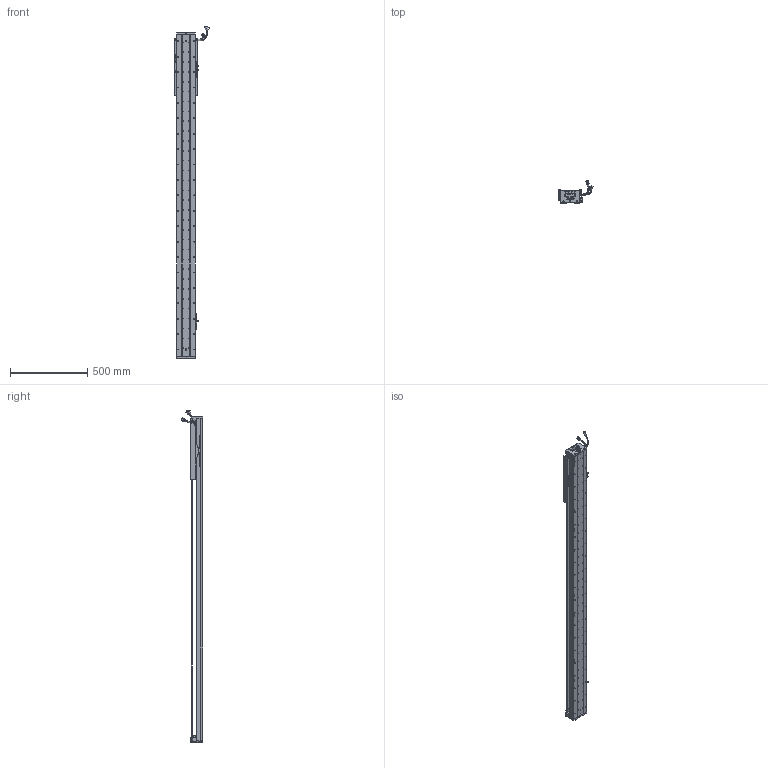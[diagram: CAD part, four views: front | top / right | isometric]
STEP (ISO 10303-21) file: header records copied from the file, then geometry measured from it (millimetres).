
FILE_DESCRIPTION (( 'STEP AP203' ), '1' );
FILE_NAME ('Z5-RY120D-1-L500-B-K.SLDASM_1650.step', '2021-05-17T06:23:33', ( '盈信电脑' ), ( '东莞市道滘镇水果街19号' ), 'SwSTEP 2.0', 'SolidWorks 2016', '' );
FILE_SCHEMA (( 'CONFIG_CONTROL_DESIGN' ));
Length unit declared in the file: millimetre
Products named in the file (37): 140雄赽晤鎢ん堤盄; HOLDER0; Z5-RY120-500-倰第菁釱_1650; HARNESS-Part-2; RY100FB-遵嫖萇覜茼え; PSLH080_PSLF2; LABEL; LABEL-Part-1; SEAL-Part-1; SCREW-M1.6; HARNESS-Part-1; SCALE-Part-1; HARNESS; Z-120詩湍傷裔啣; Z-RY120D詩湍奻揤裔; SCREW-M1.6-3; SEAL; 榋妏寠巭燃_暯_M2_2; 覜茼ん672; 140蚥薯蝶輸; SHIELDPLATE; SCREW-M1.6-1; SCALE; Z-RY120D詩湍狟揤裔; 120-Z-臏賑輸盄裔(21遴); Z5-RY120铝滑块（21款）; Z5-RY120-L500詩湍100mm遵_1650; SCALE-Part-2; PBU_SHEET; COVER-Part-1; 080黍杅芛假蚾釱21遴; Z5-RY120D-1-L500-B-K.SLDASM_1650; 672嫖萇羲壽假蚾釱; SCREW-M1.7-1; COVER; SCREW-M1.7; SCREW-M1.6-2
Assembly tree (43 placements, depth 4):
  Z5-RY120D-1-L500-B-K.SLDASM_1650
    Z5-RY120-500-倰第菁釱_1650
    覜茼ん672  x3
    672嫖萇羲壽假蚾釱  x2
    Z5-RY120铝滑块（21款）
    PSLH080_PSLF2
      SCALE
        SCALE-Part-1
        SCALE-Part-2
      HARNESS
        HARNESS-Part-1
        HARNESS-Part-2
      LABEL
        LABEL-Part-1
      COVER
        COVER-Part-1
      SEAL
        SEAL-Part-1
      榋妏寠巭燃_暯_M2_2
      SHIELDPLATE
      SCREW-M1.7
      SCREW-M1.7-1
      PBU_SHEET
      SCREW-M1.6
      SCREW-M1.6-1
      SCREW-M1.6-2
      SCREW-M1.6-3
      HOLDER0
    080黍杅芛假蚾釱21遴
    120-Z-臏賑輸盄裔(21遴)
    140雄赽晤鎢ん堤盄
    140蚥薯蝶輸  x2
    RY100FB-遵嫖萇覜茼え
    Z-120詩湍傷裔啣  x2
    Z-RY120D詩湍奻揤裔  x2
    Z-RY120D詩湍狟揤裔  x2
    Z5-RY120-L500詩湍100mm遵_1650
Bounding box: 222.88 x 140.94 x 2153.99 mm (x, y, z)
Volume: 5571655.4 mm3; surface area: 1868197.7 mm2
Topology: 38 solids, 38 shells, 3465 faces, 9713 edges, 6134 vertices
Faces by surface type: cylinder 1775, plane 1218, cone 350, torus 69, bspline 53
Entity records: 112980 total; most frequent: CARTESIAN_POINT 33273, ORIENTED_EDGE 16250, DIRECTION 15245, EDGE_CURVE 8125, AXIS2_PLACEMENT_3D 5644, VERTEX_POINT 5254, VECTOR 3957, LINE 3957
